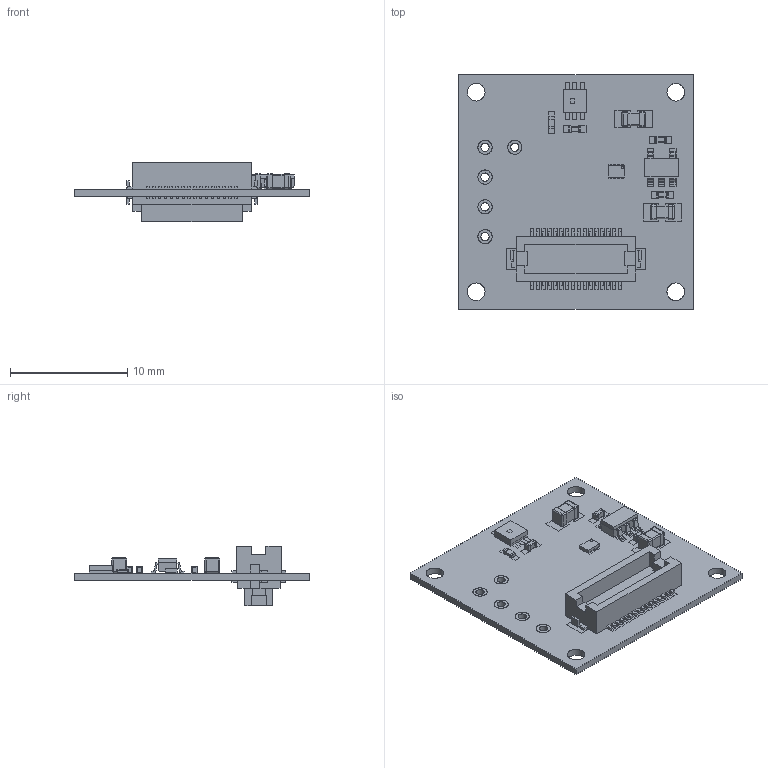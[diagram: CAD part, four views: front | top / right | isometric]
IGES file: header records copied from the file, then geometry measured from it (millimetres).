
Global section: file name: Filename.iges; native system: Open CASCADE 7.4; preprocessor: Open CASCADE IGES processor 7.4; date: 20200720.130917; units: millimetre
Bounding box: 20 x 20 x 5.1 mm (x, y, z)
Surface area: 2300.5 mm2 (no closed solid volume)
Topology: 0 solids, 0 shells, 1758 faces, 8352 edges, 9535 vertices
Faces by surface type: plane 1523, revolution 235
